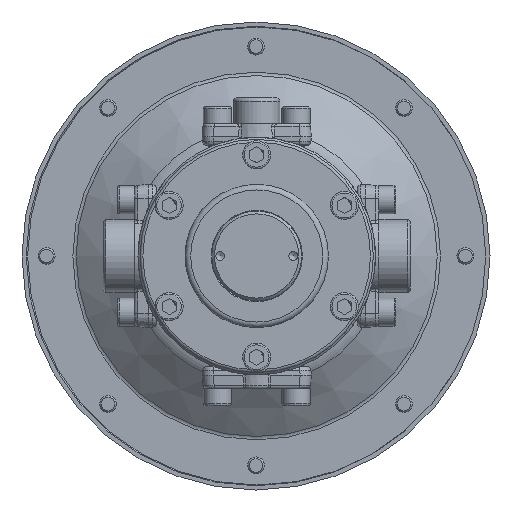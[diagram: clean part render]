
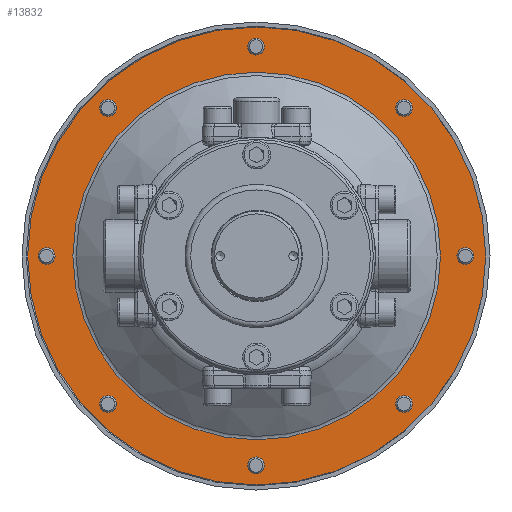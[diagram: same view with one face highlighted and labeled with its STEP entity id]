
A CAD part, front view. The second image highlights one B-rep face of the part: STEP entity #13832.
In plain terms, the highlighted planar face has unit normal (0, -1, 0).
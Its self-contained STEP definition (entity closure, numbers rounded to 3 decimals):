
#972=PLANE('',#15570);
#1411=FACE_BOUND('',#2737,.T.);
#1412=FACE_BOUND('',#2738,.T.);
#1413=FACE_BOUND('',#2739,.T.);
#1414=FACE_BOUND('',#2740,.T.);
#1415=FACE_BOUND('',#2741,.T.);
#1416=FACE_BOUND('',#2742,.T.);
#1417=FACE_BOUND('',#2743,.T.);
#1418=FACE_BOUND('',#2744,.T.);
#1419=FACE_BOUND('',#2745,.T.);
#1824=FACE_OUTER_BOUND('',#2736,.T.);
#2736=EDGE_LOOP('',(#10888));
#2737=EDGE_LOOP('',(#10889));
#2738=EDGE_LOOP('',(#10890));
#2739=EDGE_LOOP('',(#10891));
#2740=EDGE_LOOP('',(#10892));
#2741=EDGE_LOOP('',(#10893));
#2742=EDGE_LOOP('',(#10894));
#2743=EDGE_LOOP('',(#10895));
#2744=EDGE_LOOP('',(#10896));
#2745=EDGE_LOOP('',(#10897));
#5350=CIRCLE('',#15530,2.459);
#5353=CIRCLE('',#15535,2.459);
#5356=CIRCLE('',#15540,2.459);
#5359=CIRCLE('',#15545,2.459);
#5362=CIRCLE('',#15550,2.459);
#5365=CIRCLE('',#15555,2.459);
#5368=CIRCLE('',#15560,2.459);
#5371=CIRCLE('',#15565,2.459);
#5373=CIRCLE('',#15569,81.5);
#5374=CIRCLE('',#15571,65.402);
#6361=VERTEX_POINT('',#24207);
#6364=VERTEX_POINT('',#24217);
#6367=VERTEX_POINT('',#24227);
#6370=VERTEX_POINT('',#24237);
#6373=VERTEX_POINT('',#24247);
#6376=VERTEX_POINT('',#24257);
#6379=VERTEX_POINT('',#24267);
#6382=VERTEX_POINT('',#24277);
#6384=VERTEX_POINT('',#24284);
#6385=VERTEX_POINT('',#24288);
#7970=EDGE_CURVE('',#6361,#6361,#5350,.T.);
#7975=EDGE_CURVE('',#6364,#6364,#5353,.T.);
#7980=EDGE_CURVE('',#6367,#6367,#5356,.T.);
#7985=EDGE_CURVE('',#6370,#6370,#5359,.T.);
#7990=EDGE_CURVE('',#6373,#6373,#5362,.T.);
#7995=EDGE_CURVE('',#6376,#6376,#5365,.T.);
#8000=EDGE_CURVE('',#6379,#6379,#5368,.T.);
#8005=EDGE_CURVE('',#6382,#6382,#5371,.T.);
#8008=EDGE_CURVE('',#6384,#6384,#5373,.T.);
#8010=EDGE_CURVE('',#6385,#6385,#5374,.T.);
#10888=ORIENTED_EDGE('',*,*,#8008,.T.);
#10889=ORIENTED_EDGE('',*,*,#7975,.T.);
#10890=ORIENTED_EDGE('',*,*,#8005,.T.);
#10891=ORIENTED_EDGE('',*,*,#7995,.T.);
#10892=ORIENTED_EDGE('',*,*,#7985,.T.);
#10893=ORIENTED_EDGE('',*,*,#7990,.T.);
#10894=ORIENTED_EDGE('',*,*,#8000,.T.);
#10895=ORIENTED_EDGE('',*,*,#7980,.T.);
#10896=ORIENTED_EDGE('',*,*,#7970,.T.);
#10897=ORIENTED_EDGE('',*,*,#8010,.F.);
#13832=ADVANCED_FACE('',(#1824,#1411,#1412,#1413,#1414,#1415,#1416,#1417,
#1418,#1419),#972,.T.);
#15530=AXIS2_PLACEMENT_3D('',#24208,#18271,#18272);
#15535=AXIS2_PLACEMENT_3D('',#24218,#18283,#18284);
#15540=AXIS2_PLACEMENT_3D('',#24228,#18295,#18296);
#15545=AXIS2_PLACEMENT_3D('',#24238,#18307,#18308);
#15550=AXIS2_PLACEMENT_3D('',#24248,#18319,#18320);
#15555=AXIS2_PLACEMENT_3D('',#24258,#18331,#18332);
#15560=AXIS2_PLACEMENT_3D('',#24268,#18343,#18344);
#15565=AXIS2_PLACEMENT_3D('',#24278,#18355,#18356);
#15569=AXIS2_PLACEMENT_3D('',#24285,#18364,#18365);
#15570=AXIS2_PLACEMENT_3D('',#24287,#18367,#18368);
#15571=AXIS2_PLACEMENT_3D('',#24289,#18369,#18370);
#18271=DIRECTION('center_axis',(0.,1.,0.));
#18272=DIRECTION('ref_axis',(1.,0.,0.));
#18283=DIRECTION('center_axis',(0.,1.,0.));
#18284=DIRECTION('ref_axis',(1.,0.,0.));
#18295=DIRECTION('center_axis',(0.,1.,0.));
#18296=DIRECTION('ref_axis',(1.,0.,0.));
#18307=DIRECTION('center_axis',(0.,1.,0.));
#18308=DIRECTION('ref_axis',(1.,0.,0.));
#18319=DIRECTION('center_axis',(0.,1.,0.));
#18320=DIRECTION('ref_axis',(1.,0.,0.));
#18331=DIRECTION('center_axis',(0.,1.,0.));
#18332=DIRECTION('ref_axis',(1.,0.,0.));
#18343=DIRECTION('center_axis',(0.,1.,0.));
#18344=DIRECTION('ref_axis',(1.,0.,0.));
#18355=DIRECTION('center_axis',(0.,1.,0.));
#18356=DIRECTION('ref_axis',(1.,0.,0.));
#18364=DIRECTION('center_axis',(0.,-1.,0.));
#18365=DIRECTION('ref_axis',(1.,0.,0.));
#18367=DIRECTION('center_axis',(0.,-1.,0.));
#18368=DIRECTION('ref_axis',(0.,0.,-1.));
#18369=DIRECTION('center_axis',(0.,-1.,0.));
#18370=DIRECTION('ref_axis',(1.,0.,0.));
#24207=CARTESIAN_POINT('',(50.044,16.,52.503));
#24208=CARTESIAN_POINT('Origin',(52.503,16.,52.503));
#24217=CARTESIAN_POINT('',(-54.961,16.,52.503));
#24218=CARTESIAN_POINT('Origin',(-52.503,16.,52.503));
#24227=CARTESIAN_POINT('',(-76.709,16.,0.));
#24228=CARTESIAN_POINT('Origin',(-74.25,16.,0.));
#24237=CARTESIAN_POINT('',(-2.459,16.,74.25));
#24238=CARTESIAN_POINT('Origin',(0.,16.,
74.25));
#24247=CARTESIAN_POINT('',(71.792,16.,0.));
#24248=CARTESIAN_POINT('Origin',(74.25,16.,0.));
#24257=CARTESIAN_POINT('',(50.044,16.,-52.503));
#24258=CARTESIAN_POINT('Origin',(52.503,16.,-52.503));
#24267=CARTESIAN_POINT('',(-2.459,16.,-74.25));
#24268=CARTESIAN_POINT('Origin',(0.,16.,
-74.25));
#24277=CARTESIAN_POINT('',(-54.961,16.,-52.503));
#24278=CARTESIAN_POINT('Origin',(-52.503,16.,-52.503));
#24284=CARTESIAN_POINT('',(-81.5,16.,0.));
#24285=CARTESIAN_POINT('Origin',(0.,16.,
0.));
#24287=CARTESIAN_POINT('Origin',(65.402,16.,0.));
#24288=CARTESIAN_POINT('',(0.,16.,65.402));
#24289=CARTESIAN_POINT('Origin',(0.,16.,
0.));
